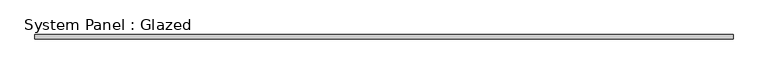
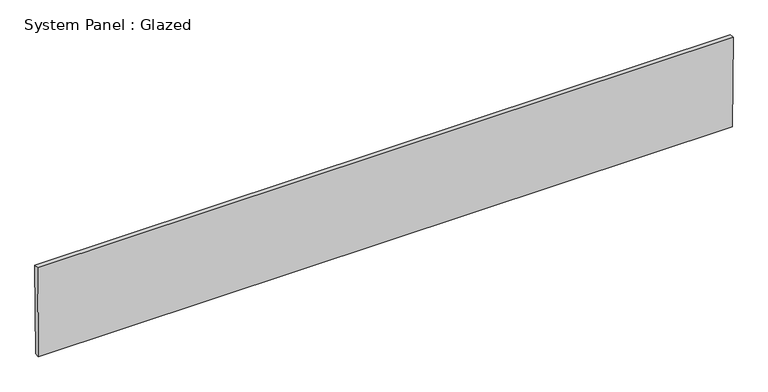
"""IFC4 building model written with IfcOpenShell, lengths in millimetres: plate geometry, System Panel : Glazed."""

from ifc_helpers import new_model, si_unit, frame, origin, place, context, project, spatial, polyline, outline, extrude, source, transform, mapped, element, save


def system_panel_glazed_a149731e(model_context):
    return source(origin(), model_context, "Body", "SweptSolid", [
        extrude(outline(polyline([(0.0, -1959.1955804), (0.0, 1959.1955804), (530.6712495, 1963.1592151), (530.6712495, -1963.1592151), (0.0, -1959.1955804)])), frame((0.0, -44.45, 0.0), z_axis=(0.0, 1.0, 0.0), x_axis=(0.0, 0.0, 1.0)), (0.0, 0.0, 1.0), 25.4),
    ])


if __name__ == "__main__":
    model = new_model("IFC4")
    model_context = context("Model", 3, world=origin())
    ifc_project = project(units=[si_unit("LENGTHUNIT", "METRE", prefix="MILLI")], contexts=[model_context])
    site = spatial("IfcSite", under=ifc_project)
    building = spatial("IfcBuilding", under=site)
    placement = place(None, origin())
    system_panel_glazed_shape = system_panel_glazed_a149731e(model_context)
    element("IfcPlate", 1, ObjectType="System Panel : Glazed", at=placement, inside=building, context=model_context, shape_type="MappedRepresentation", body=[
        mapped(system_panel_glazed_shape, transform((0.0, 0.0, 0.0), x_axis=(1.0, 0.0, 0.0), y_axis=(0.0, 1.0, 0.0), z_axis=(0.0, 0.0, 1.0))),
    ])
    save(model, "model.ifc")
